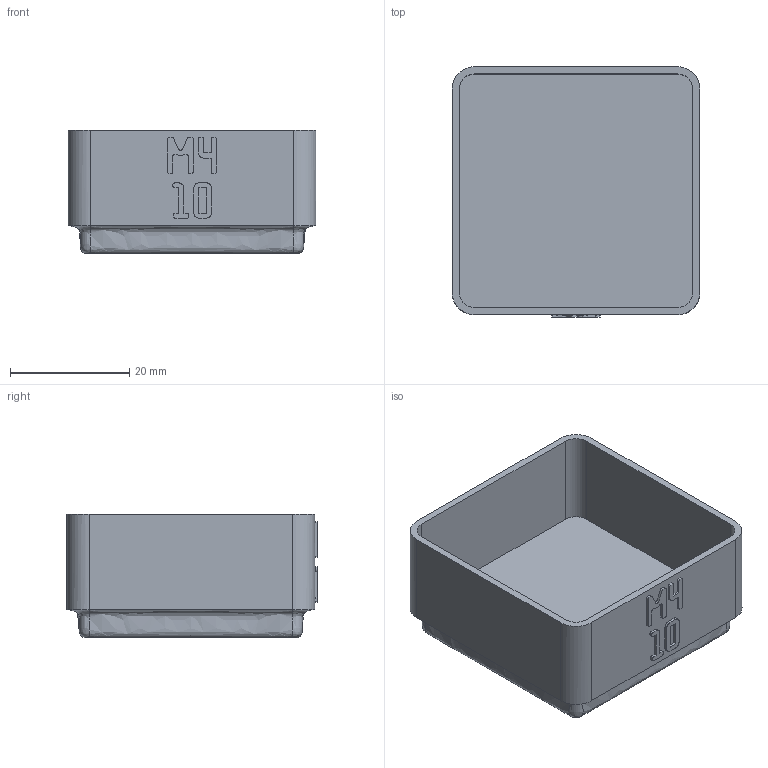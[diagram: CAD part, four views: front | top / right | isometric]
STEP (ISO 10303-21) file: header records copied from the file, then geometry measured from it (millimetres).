
FILE_DESCRIPTION(('Open CASCADE Model'),'2;1');
FILE_NAME('Open CASCADE Shape Model','2026-11-03T15:27:38',('Author'),( 'Open CASCADE'),'Open CASCADE STEP processor 8.0','build123d', 'Unknown');
FILE_SCHEMA(('AUTOMOTIVE_DESIGN { 1 0 10303 214 1 1 1 1 }'));
Length unit declared in the file: millimetre
Products named in the file (1): COMPOUND
Bounding box: 41.5 x 41.9 x 20.75 mm (x, y, z)
Volume: 9643.5 mm3; surface area: 8974.6 mm2
Topology: 1 solids, 1 shells, 379 faces, 1105 edges, 734 vertices
Faces by surface type: plane 363, bspline 8, cylinder 8
Entity records: 26376 total; most frequent: CARTESIAN_POINT 5711, DIRECTION 3321, LINE 2549, VECTOR 2549, ORIENTED_EDGE 2210, PCURVE 2210, DEFINITIONAL_REPRESENTATION 2210, EDGE_CURVE 1105
